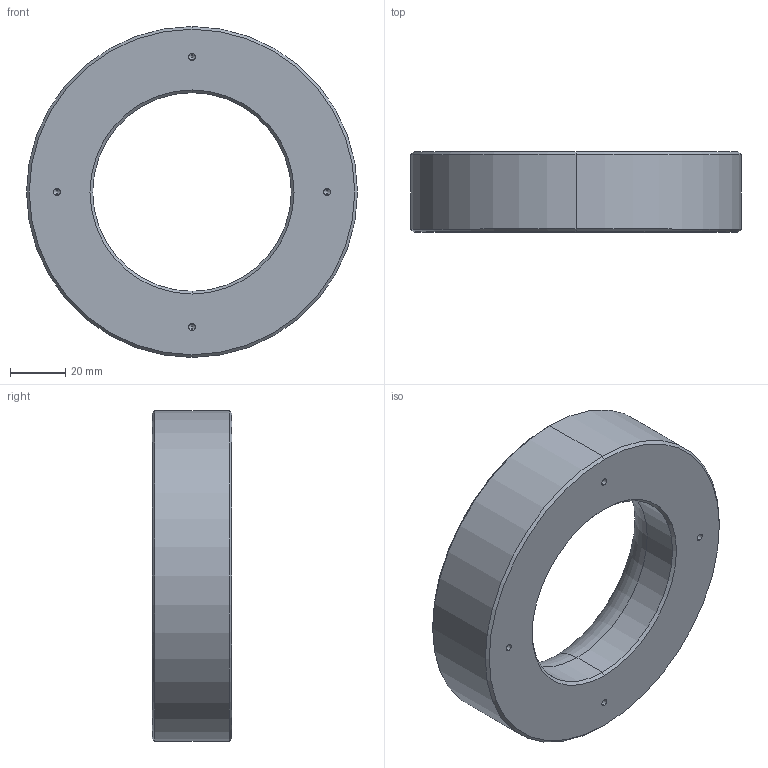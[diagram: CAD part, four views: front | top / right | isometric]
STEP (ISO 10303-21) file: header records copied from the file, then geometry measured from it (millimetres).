
FILE_DESCRIPTION (( 'STEP AP203' ), '1' );
FILE_NAME ('R2-120 3D假蚾芞.STEP', '2021-11-27T02:50:56', ( '' ), ( '' ), 'SwSTEP 2.0', 'SolidWorks 2018', '' );
FILE_SCHEMA (( 'CONFIG_CONTROL_DESIGN' ));
Length unit declared in the file: millimetre
Products named in the file (1): R2-120 3D假蚾芞
Bounding box: 120 x 29 x 120 mm (x, y, z)
Volume: 197378.1 mm3; surface area: 30197.6 mm2
Topology: 1 solids, 1 shells, 30 faces, 68 edges, 36 vertices
Faces by surface type: cone 14, cylinder 12, torus 2, plane 2
Entity records: 863 total; most frequent: DIRECTION 156, CARTESIAN_POINT 127, ORIENTED_EDGE 120, AXIS2_PLACEMENT_3D 65, EDGE_CURVE 60, VERTEX_POINT 36, EDGE_LOOP 36, CIRCLE 34
